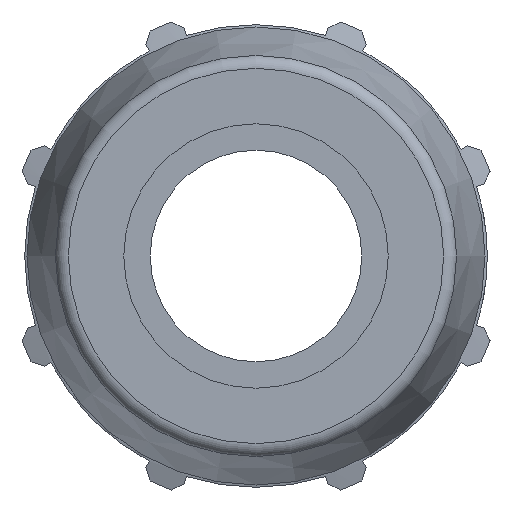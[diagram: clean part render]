
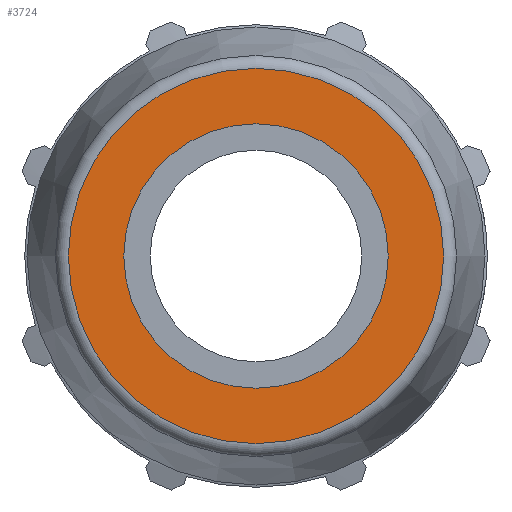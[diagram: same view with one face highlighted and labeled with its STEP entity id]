
A CAD part, left-side view. The second image highlights one B-rep face of the part: STEP entity #3724.
In plain terms, the highlighted planar face has unit normal (-1, 0, 0).
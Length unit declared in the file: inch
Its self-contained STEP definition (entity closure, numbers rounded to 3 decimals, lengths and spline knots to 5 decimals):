
#135=FACE_BOUND('',#500,.T.);
#183=PLANE('',#3985);
#305=FACE_OUTER_BOUND('',#499,.T.);
#499=EDGE_LOOP('',(#2640,#2641));
#500=EDGE_LOOP('',(#2642,#2643));
#759=CIRCLE('',#3982,1.6788);
#760=CIRCLE('',#3983,1.6788);
#762=CIRCLE('',#3986,1.18307);
#763=CIRCLE('',#3987,1.18307);
#1537=VERTEX_POINT('',#5663);
#1538=VERTEX_POINT('',#5665);
#1539=VERTEX_POINT('',#5670);
#1540=VERTEX_POINT('',#5671);
#1967=EDGE_CURVE('',#1537,#1538,#759,.T.);
#1968=EDGE_CURVE('',#1538,#1537,#760,.T.);
#1970=EDGE_CURVE('',#1539,#1540,#762,.T.);
#1971=EDGE_CURVE('',#1540,#1539,#763,.T.);
#2640=ORIENTED_EDGE('',*,*,#1968,.F.);
#2641=ORIENTED_EDGE('',*,*,#1967,.F.);
#2642=ORIENTED_EDGE('',*,*,#1970,.T.);
#2643=ORIENTED_EDGE('',*,*,#1971,.T.);
#3724=ADVANCED_FACE('',(#305,#135),#183,.T.);
#3982=AXIS2_PLACEMENT_3D('',#5666,#4550,#4551);
#3983=AXIS2_PLACEMENT_3D('',#5667,#4552,#4553);
#3985=AXIS2_PLACEMENT_3D('',#5669,#4556,#4557);
#3986=AXIS2_PLACEMENT_3D('',#5672,#4558,#4559);
#3987=AXIS2_PLACEMENT_3D('',#5673,#4560,#4561);
#4550=DIRECTION('center_axis',(1.,0.,0.));
#4551=DIRECTION('ref_axis',(0.,-1.,0.));
#4552=DIRECTION('center_axis',(1.,0.,0.));
#4553=DIRECTION('ref_axis',(0.,-1.,0.));
#4556=DIRECTION('center_axis',(-1.,0.,0.));
#4557=DIRECTION('ref_axis',(0.,0.,1.));
#4558=DIRECTION('center_axis',(1.,0.,0.));
#4559=DIRECTION('ref_axis',(0.,0.,-1.));
#4560=DIRECTION('center_axis',(1.,0.,0.));
#4561=DIRECTION('ref_axis',(0.,0.,-1.));
#5663=CARTESIAN_POINT('',(-4.525,0.,1.6788));
#5665=CARTESIAN_POINT('',(-4.525,1.6788,0.));
#5666=CARTESIAN_POINT('Origin',(-4.525,0.,0.));
#5667=CARTESIAN_POINT('Origin',(-4.525,0.,0.));
#5669=CARTESIAN_POINT('Origin',(-4.525,1.77461,0.));
#5670=CARTESIAN_POINT('',(-4.525,1.18307,0.));
#5671=CARTESIAN_POINT('',(-4.525,-1.18307,0.));
#5672=CARTESIAN_POINT('Origin',(-4.525,0.,0.));
#5673=CARTESIAN_POINT('Origin',(-4.525,0.,0.));
